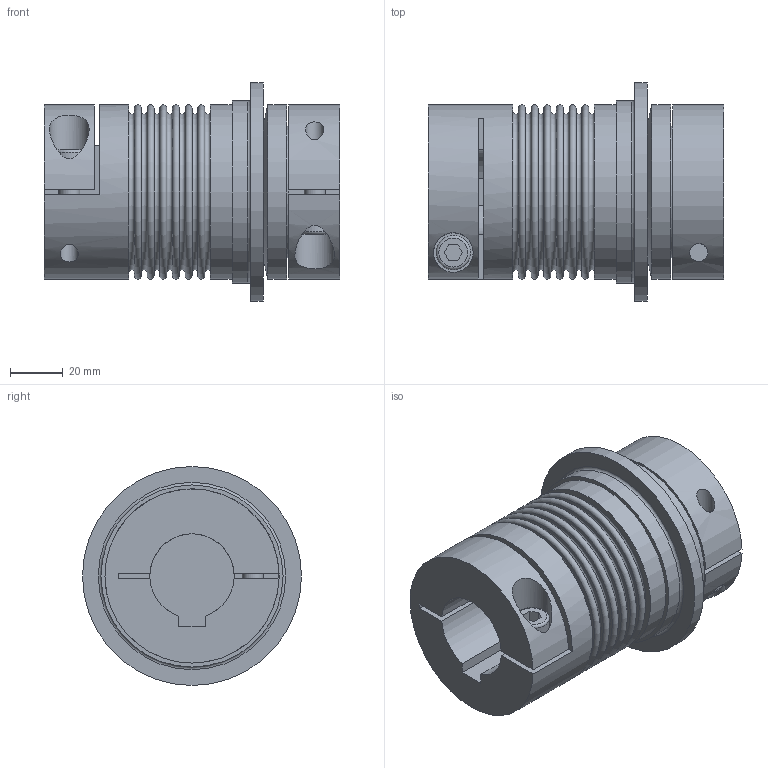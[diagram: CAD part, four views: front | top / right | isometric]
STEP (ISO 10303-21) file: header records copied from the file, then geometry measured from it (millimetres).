
FILE_DESCRIPTION(/* description */ ('STEP AP214'),/* implementation_level */ '2;1');
FILE_NAME(/* name */ 'C:\Diequa Files\DieQua Coupling\TB2\STP\TB2.60.112.F.#.#.stp',/* time_stamp */ '2019-04-26T10:42:05-05:00',/* author */ ('DiequaCAD'),/* organization */ (''),/* preprocessor_version */ 'ST-DEVELOPER v18',/* originating_system */ 'Autodesk Inventor 2020',/* authorisation */ ' ');
FILE_SCHEMA (('AUTOMOTIVE_DESIGN { 1 0 10303 214 3 1 1 }'));
Length unit declared in the file: millimetre
Products named in the file (1): TB2.60.112.F.#.#
Bounding box: 112 x 83 x 83 mm (x, y, z)
Volume: 321301 mm3; surface area: 59959.6 mm2
Topology: 1 solids, 1 shells, 98 faces, 232 edges, 164 vertices
Faces by surface type: plane 61, cylinder 20, torus 16, cone 1
Full cylindrical faces by diameter (mm): 6.8 x2, 8 x2, 9 x2, 13 x2, 15 x2, 50 x1, 66 x3, 69 x1, 83 x1
Entity records: 3121 total; most frequent: CARTESIAN_POINT 647, DIRECTION 547, ORIENTED_EDGE 464, EDGE_CURVE 232, AXIS2_PLACEMENT_3D 222, VERTEX_POINT 164, EDGE_LOOP 130, CIRCLE 123
